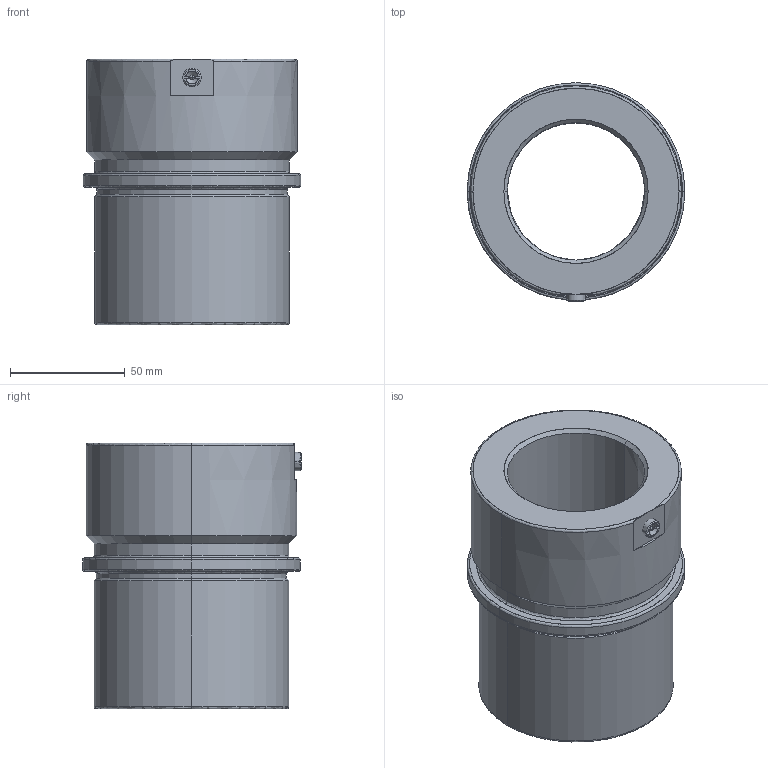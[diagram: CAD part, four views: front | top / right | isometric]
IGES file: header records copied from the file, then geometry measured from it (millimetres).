
Start section: START RECORD GO HERE.
Global section: file name: 744-60.igs; native system: DASSAULT SYSTEMES CATIA V5 R20 - www.3ds.com; preprocessor: CATIA Version 5 Release 20 ; author: Utente; organization: NB04-ASUS; date: 20201223.220852; units: millimetre
Bounding box: 95 x 95.5 x 116 mm (x, y, z)
Surface area: 63766.7 mm2 (no closed solid volume)
Topology: 0 solids, 0 shells, 67 faces, 306 edges, 302 vertices
Faces by surface type: revolution 51, plane 16
